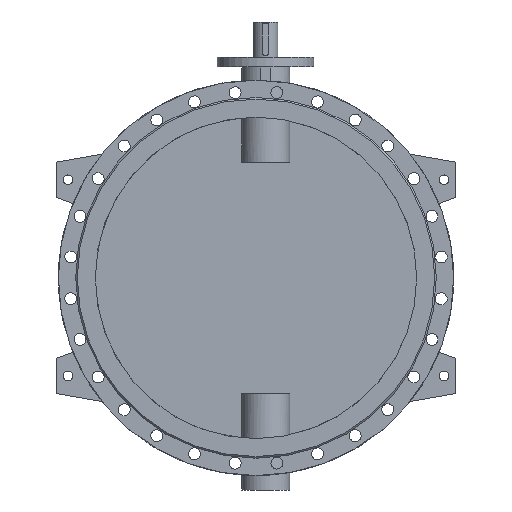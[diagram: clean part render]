
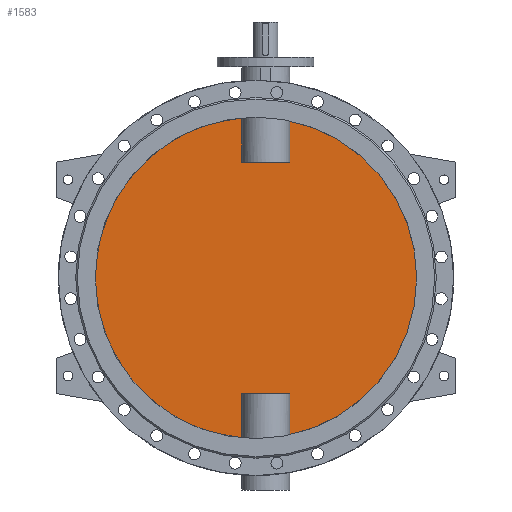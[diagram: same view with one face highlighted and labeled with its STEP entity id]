
A CAD part, front view. The second image highlights one B-rep face of the part: STEP entity #1583.
In plain terms, the highlighted planar face has unit normal (0, -1, 0).
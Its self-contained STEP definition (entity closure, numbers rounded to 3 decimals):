
#1583=ADVANCED_FACE('',(#3397),#3399,.F.);
#3397=FACE_BOUND('',#3398,.T.);
#3398=EDGE_LOOP('',(#4305,#4306,#4307,#4308,#4309,#4310,#4311,#4312));
#3399=PLANE('',#3400);
#3400=AXIS2_PLACEMENT_3D('',#3401,#3402,#3403);
#3401=CARTESIAN_POINT('',(0.,-5.,0.));
#3402=DIRECTION('',(0.,1.,0.));
#3403=DIRECTION('',(1.,0.,0.));
#4305=ORIENTED_EDGE('',*,*,#4759,.T.);
#4306=ORIENTED_EDGE('',*,*,#4775,.T.);
#4307=ORIENTED_EDGE('',*,*,#4776,.T.);
#4308=ORIENTED_EDGE('',*,*,#4777,.T.);
#4309=ORIENTED_EDGE('',*,*,#4761,.T.);
#4310=ORIENTED_EDGE('',*,*,#4778,.T.);
#4311=ORIENTED_EDGE('',*,*,#4779,.T.);
#4312=ORIENTED_EDGE('',*,*,#4780,.T.);
#4759=EDGE_CURVE('',#5503,#5504,#5505,.F.);
#4761=EDGE_CURVE('',#5508,#5506,#5509,.F.);
#4775=EDGE_CURVE('',#5504,#5535,#5536,.T.);
#4776=EDGE_CURVE('',#5535,#5537,#5538,.F.);
#4777=EDGE_CURVE('',#5537,#5508,#5539,.F.);
#4778=EDGE_CURVE('',#5506,#5540,#5541,.F.);
#4779=EDGE_CURVE('',#5540,#5542,#5543,.F.);
#4780=EDGE_CURVE('',#5542,#5503,#5544,.T.);
#5503=VERTEX_POINT('',#7941);
#5504=VERTEX_POINT('',#7942);
#5505=CIRCLE('',#7943,500.);
#5506=VERTEX_POINT('',#7947);
#5508=VERTEX_POINT('',#8045);
#5509=CIRCLE('',#8046,500.);
#5535=VERTEX_POINT('',#8426);
#5536=LINE('',#8427,#8428);
#5537=VERTEX_POINT('',#8430);
#5538=LINE('',#8431,#8432);
#5539=LINE('',#8434,#8435);
#5540=VERTEX_POINT('',#8437);
#5541=LINE('',#8438,#8439);
#5542=VERTEX_POINT('',#8441);
#5543=LINE('',#8442,#8443);
#5544=LINE('',#8445,#8446);
#7941=CARTESIAN_POINT('',(104.833,-5.,-488.887));
#7942=CARTESIAN_POINT('',(104.833,-5.,488.887));
#7943=AXIS2_PLACEMENT_3D('',#7944,#7945,#7946);
#7944=CARTESIAN_POINT('',(0.,-5.,0.));
#7945=DIRECTION('',(0.,1.,0.));
#7946=DIRECTION('',(0.21,0.,0.978));
#7947=CARTESIAN_POINT('',(-44.833,-5.,-497.986));
#8045=CARTESIAN_POINT('',(-44.833,-5.,497.986));
#8046=AXIS2_PLACEMENT_3D('',#8047,#8048,#8049);
#8047=CARTESIAN_POINT('',(0.,-5.,0.));
#8048=DIRECTION('',(0.,1.,0.));
#8049=DIRECTION('',(-0.09,0.,-0.996));
#8426=CARTESIAN_POINT('',(104.833,-5.,360.));
#8427=CARTESIAN_POINT('',(104.833,-5.,488.887));
#8428=VECTOR('',#8429,1.);
#8429=DIRECTION('',(0.,0.,-1.));
#8430=CARTESIAN_POINT('',(-44.833,-5.,360.));
#8431=CARTESIAN_POINT('',(-44.833,-5.,360.));
#8432=VECTOR('',#8433,1.);
#8433=DIRECTION('',(1.,0.,0.));
#8434=CARTESIAN_POINT('',(-44.833,-5.,497.986));
#8435=VECTOR('',#8436,1.);
#8436=DIRECTION('',(0.,0.,-1.));
#8437=CARTESIAN_POINT('',(-44.833,-5.,-360.));
#8438=CARTESIAN_POINT('',(-44.833,-5.,-360.));
#8439=VECTOR('',#8440,1.);
#8440=DIRECTION('',(0.,0.,-1.));
#8441=CARTESIAN_POINT('',(104.833,-5.,-360.));
#8442=CARTESIAN_POINT('',(104.833,-5.,-360.));
#8443=VECTOR('',#8444,1.);
#8444=DIRECTION('',(-1.,0.,0.));
#8445=CARTESIAN_POINT('',(104.833,-5.,-360.));
#8446=VECTOR('',#8447,1.);
#8447=DIRECTION('',(0.,0.,-1.));
